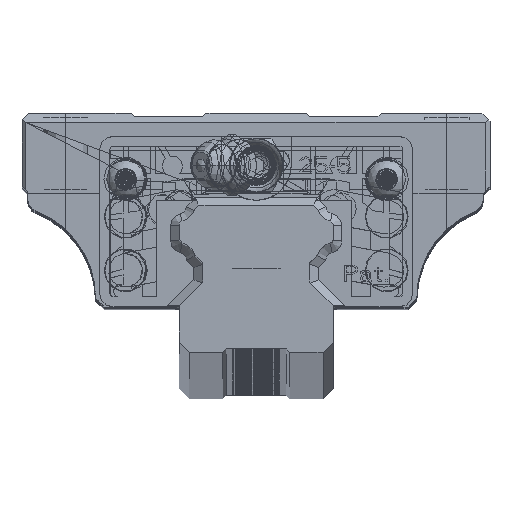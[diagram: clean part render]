
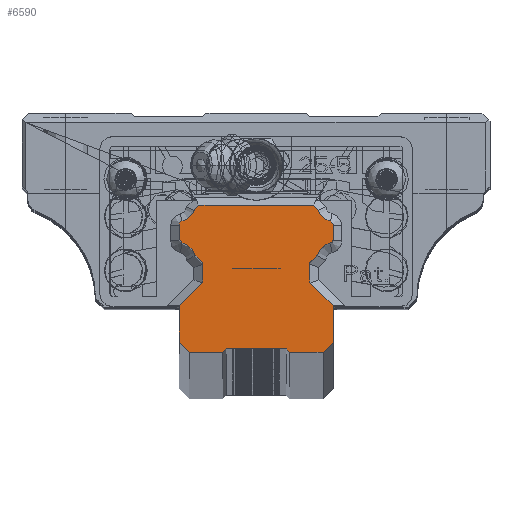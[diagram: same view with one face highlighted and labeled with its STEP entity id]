
A CAD part, top view. The second image highlights one B-rep face of the part: STEP entity #6590.
In plain terms, the highlighted planar face has unit normal (0, 0, 1).
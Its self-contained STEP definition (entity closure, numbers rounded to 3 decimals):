
#17=DIRECTION('',(0.,-1.,0.));
#18=VECTOR('',#17,2.9);
#19=CARTESIAN_POINT('',(-8.,-4.6,500.));
#20=LINE('',#19,#18);
#33=DIRECTION('',(0.,-1.,0.));
#34=VECTOR('',#33,5.5);
#35=CARTESIAN_POINT('',(-11.5,-11.,500.));
#36=LINE('',#35,#34);
#49=DIRECTION('',(1.,0.,0.));
#50=VECTOR('',#49,5.);
#51=CARTESIAN_POINT('',(-10.,-18.,500.));
#52=LINE('',#51,#50);
#755=DIRECTION('',(1.,0.,0.));
#756=VECTOR('',#755,5.);
#757=CARTESIAN_POINT('',(5.,-18.,500.));
#758=LINE('',#757,#756);
#771=DIRECTION('',(0.,1.,0.));
#772=VECTOR('',#771,5.5);
#773=CARTESIAN_POINT('',(11.5,-16.5,500.));
#774=LINE('',#773,#772);
#787=DIRECTION('',(0.,1.,0.));
#788=VECTOR('',#787,2.9);
#789=CARTESIAN_POINT('',(8.,-7.5,500.));
#790=LINE('',#789,#788);
#807=DIRECTION('',(0.,1.,0.));
#808=VECTOR('',#807,2.283);
#809=CARTESIAN_POINT('',(11.5,-1.141,500.));
#810=LINE('',#809,#808);
#1529=DIRECTION('',(0.,-1.,0.));
#1530=VECTOR('',#1529,2.283);
#1531=CARTESIAN_POINT('',(-11.5,1.141,500.));
#1532=LINE('',#1531,#1530);
#1607=CARTESIAN_POINT('',(-11.584,-4.084,500.));
#1608=DIRECTION('',(0.,0.,1.));
#1609=DIRECTION('',(0.965,0.262,0.));
#1610=AXIS2_PLACEMENT_3D('',#1607,#1608,#1609);
#1612=CARTESIAN_POINT('',(-11.099,-1.631,500.));
#1613=CARTESIAN_POINT('',(-11.177,-1.615,500.));
#1614=CARTESIAN_POINT('',(-11.312,-1.552,500.));
#1615=CARTESIAN_POINT('',(-11.458,-1.379,500.));
#1616=CARTESIAN_POINT('',(-11.5,-1.228,500.));
#1617=CARTESIAN_POINT('',(-11.5,-1.141,500.));
#1619=CARTESIAN_POINT('',(-11.,1.141,500.));
#1620=DIRECTION('',(0.,0.,-1.));
#1621=DIRECTION('',(-1.,0.,0.));
#1622=AXIS2_PLACEMENT_3D('',#1619,#1620,#1621);
#1624=CARTESIAN_POINT('',(-11.584,4.084,500.));
#1625=DIRECTION('',(0.,0.,1.));
#1626=DIRECTION('',(0.195,-0.981,0.));
#1627=AXIS2_PLACEMENT_3D('',#1624,#1625,#1626);
#1629=DIRECTION('',(0.707,0.707,0.));
#1630=VECTOR('',#1629,0.913);
#1631=CARTESIAN_POINT('',(-9.193,3.354,500.));
#1632=LINE('',#1631,#1630);
#1633=DIRECTION('',(1.,0.,0.));
#1634=VECTOR('',#1633,17.094);
#1635=CARTESIAN_POINT('',(-8.547,4.,500.));
#1636=LINE('',#1635,#1634);
#1637=DIRECTION('',(0.707,-0.707,0.));
#1638=VECTOR('',#1637,0.913);
#1639=CARTESIAN_POINT('',(8.547,4.,500.));
#1640=LINE('',#1639,#1638);
#1641=CARTESIAN_POINT('',(11.584,4.084,500.));
#1642=DIRECTION('',(0.,0.,1.));
#1643=DIRECTION('',(-0.956,-0.292,0.));
#1644=AXIS2_PLACEMENT_3D('',#1641,#1642,#1643);
#1646=CARTESIAN_POINT('',(11.082,1.635,500.));
#1647=CARTESIAN_POINT('',(11.164,1.621,500.));
#1648=CARTESIAN_POINT('',(11.3,1.562,500.));
#1649=CARTESIAN_POINT('',(11.458,1.384,500.));
#1650=CARTESIAN_POINT('',(11.5,1.23,500.));
#1651=CARTESIAN_POINT('',(11.5,1.141,500.));
#1653=CARTESIAN_POINT('',(11.,-1.141,500.));
#1654=DIRECTION('',(0.,0.,-1.));
#1655=DIRECTION('',(1.,0.,0.));
#1656=AXIS2_PLACEMENT_3D('',#1653,#1654,#1655);
#1658=CARTESIAN_POINT('',(11.584,-4.084,500.));
#1659=DIRECTION('',(0.,0.,1.));
#1660=DIRECTION('',(-0.195,0.981,0.));
#1661=AXIS2_PLACEMENT_3D('',#1658,#1659,#1660);
#1663=DIRECTION('',(-0.707,-0.707,0.));
#1664=VECTOR('',#1663,1.657);
#1665=CARTESIAN_POINT('',(9.171,-3.429,500.));
#1666=LINE('',#1665,#1664);
#1667=DIRECTION('',(0.707,-0.707,0.));
#1668=VECTOR('',#1667,4.95);
#1669=CARTESIAN_POINT('',(8.,-7.5,500.));
#1670=LINE('',#1669,#1668);
#1671=DIRECTION('',(-0.707,-0.707,0.));
#1672=VECTOR('',#1671,2.121);
#1673=CARTESIAN_POINT('',(11.5,-16.5,500.));
#1674=LINE('',#1673,#1672);
#1675=DIRECTION('',(-0.707,0.707,0.));
#1676=VECTOR('',#1675,0.707);
#1677=CARTESIAN_POINT('',(5.,-18.,500.));
#1678=LINE('',#1677,#1676);
#1679=DIRECTION('',(-1.,0.,0.));
#1680=VECTOR('',#1679,9.);
#1681=CARTESIAN_POINT('',(4.5,-17.5,500.));
#1682=LINE('',#1681,#1680);
#1683=DIRECTION('',(-0.707,-0.707,0.));
#1684=VECTOR('',#1683,0.707);
#1685=CARTESIAN_POINT('',(-4.5,-17.5,500.));
#1686=LINE('',#1685,#1684);
#1687=DIRECTION('',(-0.707,0.707,0.));
#1688=VECTOR('',#1687,2.121);
#1689=CARTESIAN_POINT('',(-10.,-18.,500.));
#1690=LINE('',#1689,#1688);
#1691=DIRECTION('',(0.707,0.707,0.));
#1692=VECTOR('',#1691,4.95);
#1693=CARTESIAN_POINT('',(-11.5,-11.,500.));
#1694=LINE('',#1693,#1692);
#1695=DIRECTION('',(-0.707,0.707,0.));
#1696=VECTOR('',#1695,1.657);
#1697=CARTESIAN_POINT('',(-8.,-4.6,500.));
#1698=LINE('',#1697,#1696);
#4111=CARTESIAN_POINT('',(-9.171,-3.429,500.));
#4113=VERTEX_POINT('',#4111);
#4117=CARTESIAN_POINT('',(-11.099,-1.631,500.));
#4118=VERTEX_POINT('',#4117);
#4119=CARTESIAN_POINT('',(-8.,-4.6,500.));
#4121=VERTEX_POINT('',#4119);
#4123=CARTESIAN_POINT('',(-8.,-7.5,500.));
#4125=VERTEX_POINT('',#4123);
#4127=CARTESIAN_POINT('',(-11.5,-11.,500.));
#4129=VERTEX_POINT('',#4127);
#4131=CARTESIAN_POINT('',(-11.5,-16.5,500.));
#4133=VERTEX_POINT('',#4131);
#4135=CARTESIAN_POINT('',(-10.,-18.,500.));
#4137=VERTEX_POINT('',#4135);
#4139=CARTESIAN_POINT('',(-5.,-18.,500.));
#4141=VERTEX_POINT('',#4139);
#4143=CARTESIAN_POINT('',(-4.5,-17.5,500.));
#4145=VERTEX_POINT('',#4143);
#4147=CARTESIAN_POINT('',(4.5,-17.5,500.));
#4149=VERTEX_POINT('',#4147);
#4419=CARTESIAN_POINT('',(5.,-18.,500.));
#4421=VERTEX_POINT('',#4419);
#4423=CARTESIAN_POINT('',(10.,-18.,500.));
#4425=VERTEX_POINT('',#4423);
#4427=CARTESIAN_POINT('',(11.5,-16.5,500.));
#4429=VERTEX_POINT('',#4427);
#4431=CARTESIAN_POINT('',(11.5,-11.,500.));
#4433=VERTEX_POINT('',#4431);
#4435=CARTESIAN_POINT('',(8.,-7.5,500.));
#4437=VERTEX_POINT('',#4435);
#4439=CARTESIAN_POINT('',(8.,-4.6,500.));
#4441=VERTEX_POINT('',#4439);
#4444=CARTESIAN_POINT('',(9.171,-3.429,500.));
#4446=VERTEX_POINT('',#4444);
#4447=CARTESIAN_POINT('',(11.097,-1.632,500.));
#4449=VERTEX_POINT('',#4447);
#4451=CARTESIAN_POINT('',(11.5,-1.141,500.));
#4453=VERTEX_POINT('',#4451);
#4456=CARTESIAN_POINT('',(11.5,1.141,500.));
#4458=VERTEX_POINT('',#4456);
#4459=CARTESIAN_POINT('',(11.082,1.635,500.));
#4461=VERTEX_POINT('',#4459);
#4463=CARTESIAN_POINT('',(9.193,3.354,500.));
#4465=VERTEX_POINT('',#4463);
#4467=CARTESIAN_POINT('',(8.547,4.,500.));
#4469=VERTEX_POINT('',#4467);
#4472=CARTESIAN_POINT('',(-8.547,4.,500.));
#4474=VERTEX_POINT('',#4472);
#4744=CARTESIAN_POINT('',(-9.193,3.354,500.));
#4746=VERTEX_POINT('',#4744);
#4747=CARTESIAN_POINT('',(-11.097,1.632,500.));
#4749=VERTEX_POINT('',#4747);
#4751=CARTESIAN_POINT('',(-11.5,1.141,500.));
#4753=VERTEX_POINT('',#4751);
#4756=CARTESIAN_POINT('',(-11.5,-1.141,500.));
#4758=VERTEX_POINT('',#4756);
#6555=CARTESIAN_POINT('',(0.,0.,500.));
#6556=DIRECTION('',(0.,0.,1.));
#6557=DIRECTION('',(1.,0.,0.));
#6558=AXIS2_PLACEMENT_3D('',#6555,#6556,#6557);
#6559=PLANE('',#6558);
#6560=ORIENTED_EDGE('',*,*,#5306,.T.);
#6561=ORIENTED_EDGE('',*,*,#6514,.T.);
#6562=ORIENTED_EDGE('',*,*,#6500,.F.);
#6563=ORIENTED_EDGE('',*,*,#6485,.T.);
#6564=ORIENTED_EDGE('',*,*,#6470,.T.);
#6565=ORIENTED_EDGE('',*,*,#6455,.T.);
#6566=ORIENTED_EDGE('',*,*,#6038,.T.);
#6567=ORIENTED_EDGE('',*,*,#6023,.T.);
#6568=ORIENTED_EDGE('',*,*,#6008,.T.);
#6569=ORIENTED_EDGE('',*,*,#5993,.T.);
#6570=ORIENTED_EDGE('',*,*,#5978,.F.);
#6571=ORIENTED_EDGE('',*,*,#5963,.T.);
#6572=ORIENTED_EDGE('',*,*,#5948,.T.);
#6573=ORIENTED_EDGE('',*,*,#5933,.T.);
#6574=ORIENTED_EDGE('',*,*,#5918,.F.);
#6575=ORIENTED_EDGE('',*,*,#5903,.T.);
#6576=ORIENTED_EDGE('',*,*,#5888,.F.);
#6577=ORIENTED_EDGE('',*,*,#5873,.T.);
#6578=ORIENTED_EDGE('',*,*,#5858,.F.);
#6579=ORIENTED_EDGE('',*,*,#5843,.T.);
#6580=ORIENTED_EDGE('',*,*,#5426,.T.);
#6581=ORIENTED_EDGE('',*,*,#5411,.T.);
#6582=ORIENTED_EDGE('',*,*,#5396,.F.);
#6583=ORIENTED_EDGE('',*,*,#5381,.T.);
#6584=ORIENTED_EDGE('',*,*,#5366,.F.);
#6585=ORIENTED_EDGE('',*,*,#5351,.T.);
#6586=ORIENTED_EDGE('',*,*,#5336,.F.);
#6587=ORIENTED_EDGE('',*,*,#5321,.T.);
#6588=EDGE_LOOP('',(#6560,#6561,#6562,#6563,#6564,#6565,#6566,#6567,#6568,#6569,
#6570,#6571,#6572,#6573,#6574,#6575,#6576,#6577,#6578,#6579,#6580,#6581,#6582,
#6583,#6584,#6585,#6586,#6587));
#6589=FACE_OUTER_BOUND('',#6588,.F.);
#6590=ADVANCED_FACE('',(#6589),#6559,.T.);
#1611=CIRCLE('',#1610,2.5);
#1618=B_SPLINE_CURVE_WITH_KNOTS('',3,(#1612,#1613,#1614,#1615,#1616,#1617),
.UNSPECIFIED.,.F.,.F.,(4,1,1,4),(0.,0.333,0.667,1.),
.UNSPECIFIED.);
#1623=CIRCLE('',#1622,0.5);
#1628=CIRCLE('',#1627,2.5);
#1645=CIRCLE('',#1644,2.5);
#1652=B_SPLINE_CURVE_WITH_KNOTS('',3,(#1646,#1647,#1648,#1649,#1650,#1651),
.UNSPECIFIED.,.F.,.F.,(4,1,1,4),(0.,0.333,0.667,1.),
.UNSPECIFIED.);
#1657=CIRCLE('',#1656,0.5);
#1662=CIRCLE('',#1661,2.5);
#5306=EDGE_CURVE('',#4113,#4118,#1611,.T.);
#5321=EDGE_CURVE('',#4121,#4113,#1698,.T.);
#5336=EDGE_CURVE('',#4121,#4125,#20,.T.);
#5351=EDGE_CURVE('',#4129,#4125,#1694,.T.);
#5366=EDGE_CURVE('',#4129,#4133,#36,.T.);
#5381=EDGE_CURVE('',#4137,#4133,#1690,.T.);
#5396=EDGE_CURVE('',#4137,#4141,#52,.T.);
#5411=EDGE_CURVE('',#4145,#4141,#1686,.T.);
#5426=EDGE_CURVE('',#4149,#4145,#1682,.T.);
#5843=EDGE_CURVE('',#4421,#4149,#1678,.T.);
#5858=EDGE_CURVE('',#4421,#4425,#758,.T.);
#5873=EDGE_CURVE('',#4429,#4425,#1674,.T.);
#5888=EDGE_CURVE('',#4429,#4433,#774,.T.);
#5903=EDGE_CURVE('',#4437,#4433,#1670,.T.);
#5918=EDGE_CURVE('',#4437,#4441,#790,.T.);
#5933=EDGE_CURVE('',#4446,#4441,#1666,.T.);
#5948=EDGE_CURVE('',#4449,#4446,#1662,.T.);
#5963=EDGE_CURVE('',#4453,#4449,#1657,.T.);
#5978=EDGE_CURVE('',#4453,#4458,#810,.T.);
#5993=EDGE_CURVE('',#4461,#4458,#1652,.T.);
#6008=EDGE_CURVE('',#4465,#4461,#1645,.T.);
#6023=EDGE_CURVE('',#4469,#4465,#1640,.T.);
#6038=EDGE_CURVE('',#4474,#4469,#1636,.T.);
#6455=EDGE_CURVE('',#4746,#4474,#1632,.T.);
#6470=EDGE_CURVE('',#4749,#4746,#1628,.T.);
#6485=EDGE_CURVE('',#4753,#4749,#1623,.T.);
#6500=EDGE_CURVE('',#4753,#4758,#1532,.T.);
#6514=EDGE_CURVE('',#4118,#4758,#1618,.T.);
